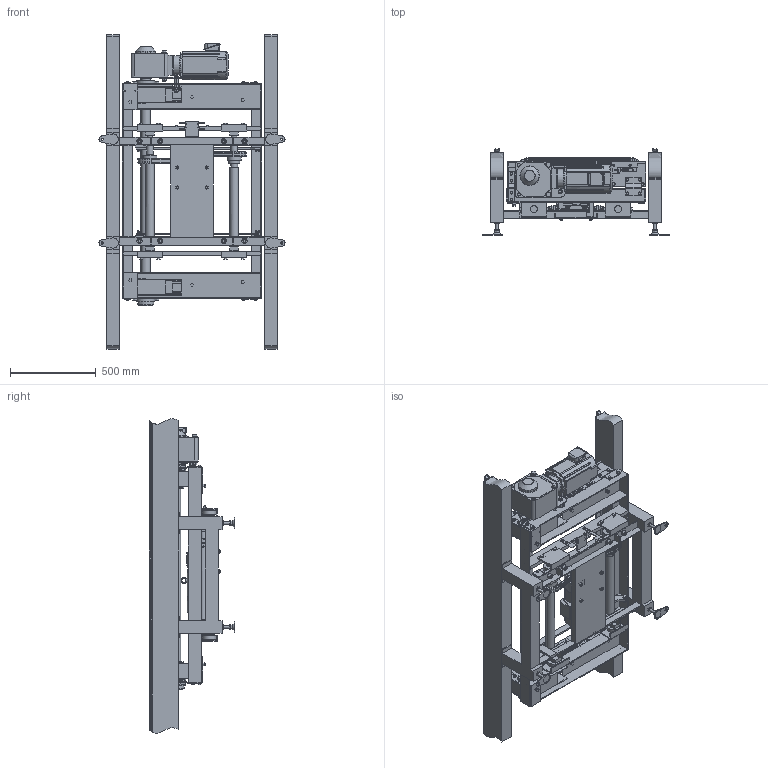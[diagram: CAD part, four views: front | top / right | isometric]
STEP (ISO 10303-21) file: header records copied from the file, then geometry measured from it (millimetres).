
FILE_DESCRIPTION (( 'STEP AP214' ), '1' );
FILE_NAME ('MHC-LTR-L-CAM.STEP', '2023-04-20T06:51:42', ( '' ), ( '' ), 'SwSTEP 2.0', 'SolidWorks 2017', '' );
FILE_SCHEMA (( 'AUTOMOTIVE_DESIGN' ));
Length unit declared in the file: millimetre
Products named in the file (1): MHC-LTR-L-CAM
Bounding box: 1084 x 500.1 x 1832.41 mm (x, y, z)
Volume: 118412806.9 mm3; surface area: 10417732.8 mm2
Topology: 50 solids, 66 shells, 4790 faces, 11585 edges, 7494 vertices
Faces by surface type: plane 4015, cylinder 721, cone 32, bspline 22
Full cylindrical faces by diameter (mm): 3 x2, 3.2 x2, 4 x10, 5 x7, 6.6 x1, 6.8 x8, 7 x2, 7.5 x2, 8 x16, 8.5 x14, 9 x8, 9.4 x4, 10 x20, 11 x4, 12 x10, 12.2 x38, 12.5 x22, 13 x4, 14.2 x4, 15.4 x37, 16 x31, 16.2 x4, 17 x32, 17.5 x4, 18 x4, 18.4 x44, 21 x36, 21.5 x4, 22 x2, 24 x9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
Entity records: 136780 total; most frequent: CARTESIAN_POINT 26050, DIRECTION 22155, ORIENTED_EDGE 21772, EDGE_CURVE 10886, LINE 8663, VECTOR 8663, VERTEX_POINT 7318, AXIS2_PLACEMENT_3D 6746
